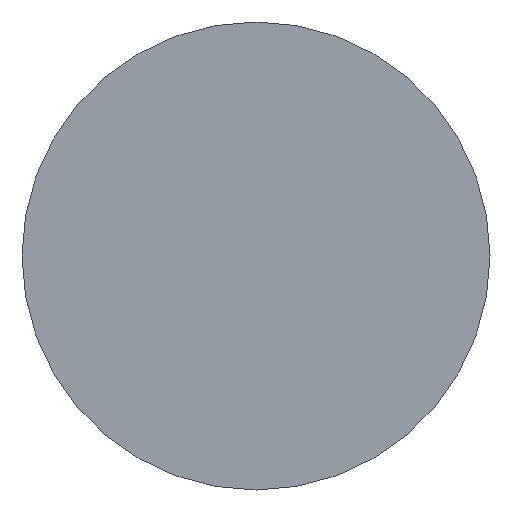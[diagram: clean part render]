
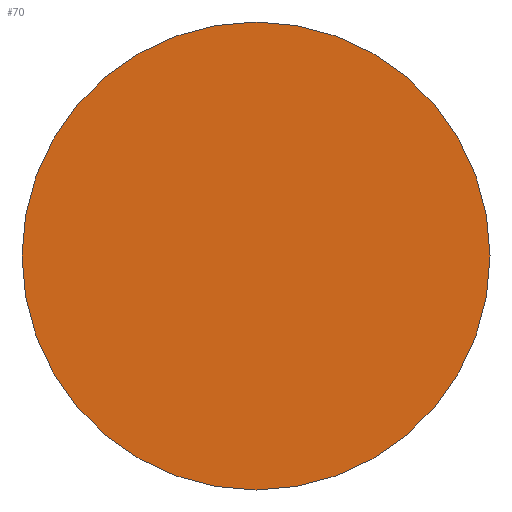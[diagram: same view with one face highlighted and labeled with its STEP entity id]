
A CAD part, left-side view. The second image highlights one B-rep face of the part: STEP entity #70.
In plain terms, the highlighted planar face has unit normal (-1, 0, 0).
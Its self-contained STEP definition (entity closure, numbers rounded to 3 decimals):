
#29 = EDGE_LOOP ( 'NONE', ( #129, #98 ) ) ;
#36 = AXIS2_PLACEMENT_3D ( 'NONE', #265, #83, #263 ) ;
#38 = FACE_OUTER_BOUND ( 'NONE', #29, .T. ) ;
#43 = DIRECTION ( 'NONE',  ( 1., 0., 0. ) ) ;
#57 = CIRCLE ( 'NONE', #254, 8. ) ;
#63 = CARTESIAN_POINT ( 'NONE',  ( 0., -8., 0. ) ) ;
#65 = CIRCLE ( 'NONE', #36, 8. ) ;
#70 = ADVANCED_FACE ( 'NONE', ( #38 ), #130, .T. ) ;
#83 = DIRECTION ( 'NONE',  ( 1., 0., 0. ) ) ;
#92 = DIRECTION ( 'NONE',  ( 0., -1., 0. ) ) ;
#97 = DIRECTION ( 'NONE',  ( -1., 0., 0. ) ) ;
#98 = ORIENTED_EDGE ( 'NONE', *, *, #159, .F. ) ;
#123 = DIRECTION ( 'NONE',  ( 0., 1., 0. ) ) ;
#129 = ORIENTED_EDGE ( 'NONE', *, *, #211, .F. ) ;
#130 = PLANE ( 'NONE',  #240 ) ;
#159 = EDGE_CURVE ( 'NONE', #210, #217, #57, .T. ) ;
#176 = CARTESIAN_POINT ( 'NONE',  ( 0., 0., 0. ) ) ;
#210 = VERTEX_POINT ( 'NONE', #63 ) ;
#211 = EDGE_CURVE ( 'NONE', #217, #210, #65, .T. ) ;
#217 = VERTEX_POINT ( 'NONE', #271 ) ;
#231 = CARTESIAN_POINT ( 'NONE',  ( 0., 0., 0. ) ) ;
#240 = AXIS2_PLACEMENT_3D ( 'NONE', #176, #97, #92 ) ;
#254 = AXIS2_PLACEMENT_3D ( 'NONE', #231, #43, #123 ) ;
#263 = DIRECTION ( 'NONE',  ( 0., 1., 0. ) ) ;
#265 = CARTESIAN_POINT ( 'NONE',  ( 0., 0., 0. ) ) ;
#271 = CARTESIAN_POINT ( 'NONE',  ( 0., 8., 0. ) ) ;
